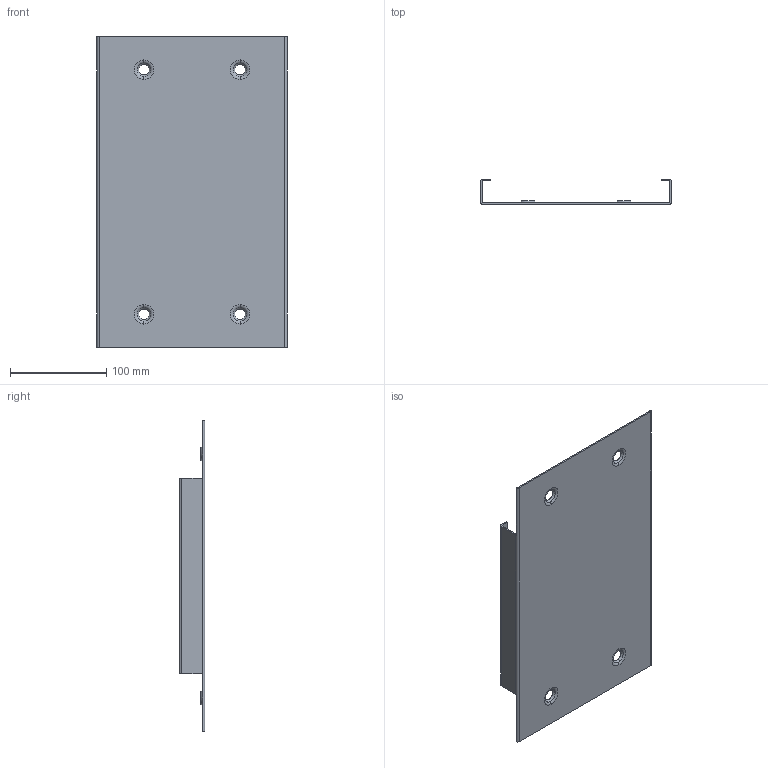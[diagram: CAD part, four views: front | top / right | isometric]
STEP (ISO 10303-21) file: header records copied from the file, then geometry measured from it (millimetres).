
FILE_DESCRIPTION (( 'STEP AP203' ), '1' );
FILE_NAME ('PST2040_V1.step', '2013-05-28T13:46:10', ( '' ), ( '' ), 'SwSTEP 2.0', 'SolidWorks 2011', '' );
FILE_SCHEMA (( 'CONFIG_CONTROL_DESIGN' ));
Length unit declared in the file: millimetre
Products named in the file (1): PST2040_V1
Bounding box: 198 x 26.5 x 323 mm (x, y, z)
Volume: 114949.8 mm3; surface area: 155245.4 mm2
Topology: 1 solids, 1 shells, 86 faces, 204 edges, 120 vertices
Faces by surface type: plane 38, cone 24, torus 16, cylinder 8
Entity records: 2561 total; most frequent: DIRECTION 482, CARTESIAN_POINT 411, ORIENTED_EDGE 408, EDGE_CURVE 204, AXIS2_PLACEMENT_3D 191, VERTEX_POINT 120, CIRCLE 104, VECTOR 100
